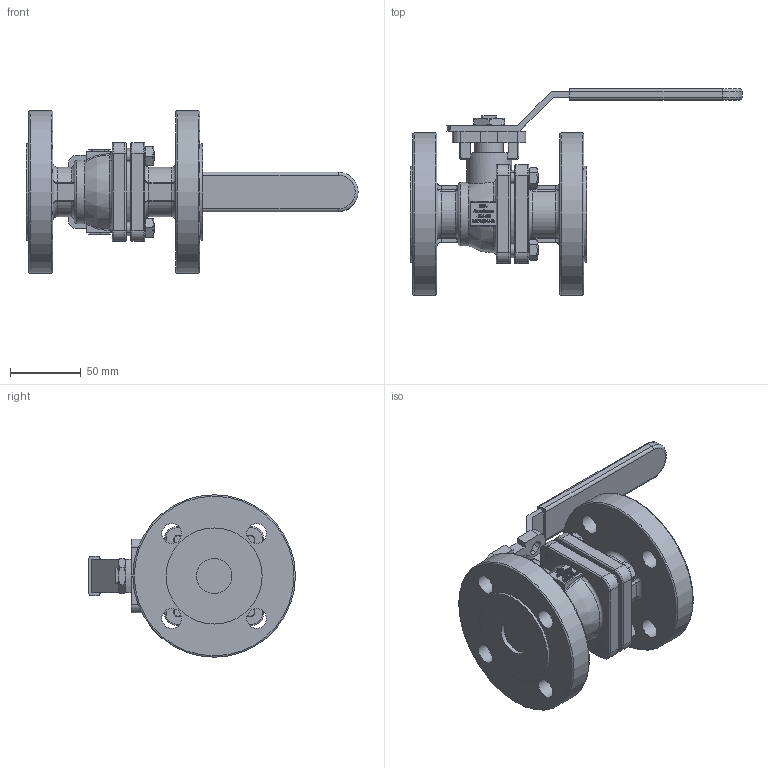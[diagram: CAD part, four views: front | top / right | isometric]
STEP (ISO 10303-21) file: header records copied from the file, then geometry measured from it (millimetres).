
FILE_DESCRIPTION((''),'2;1');
FILE_NAME('K:\Inventor\1 Artikel\12) Flanschen-Kugelhähne\12a) manuell\Econosto\465-GS, PN40, 7249\465-GS, DN25\465-GS, DN25, 3D\465-GS, DN25, PN40, HH, 3D.stp','2019-11-21T14:02:19',('claudia'),(''),'Autodesk Inventor 2013','Autodesk Inventor 2013','');
FILE_SCHEMA(('AUTOMOTIVE_DESIGN { 1 0 10303 214 1 1 1 1 }'));
Length unit declared in the file: millimetre
Products named in the file (1): Bauteil6
Bounding box: 235 x 146.35 x 115 mm (x, y, z)
Volume: 617119.5 mm3; surface area: 107878.4 mm2
Topology: 1 solids, 1 shells, 1507 faces, 4020 edges, 2630 vertices
Faces by surface type: plane 764, bspline 546, cylinder 127, torus 38, cone 32
Full cylindrical faces by diameter (mm): 6.647 x4, 8 x4, 9 x4, 14 x8, 20 x1, 25 x2, 32 x1, 33 x1, 45.071 x1, 62 x1, 68 x2, 115 x2
Entity records: 52473 total; most frequent: CARTESIAN_POINT 18560, ORIENTED_EDGE 7880, DIRECTION 4991, EDGE_CURVE 3940, VERTEX_POINT 2617, VECTOR 2425, LINE 2425, EDGE_LOOP 1725
